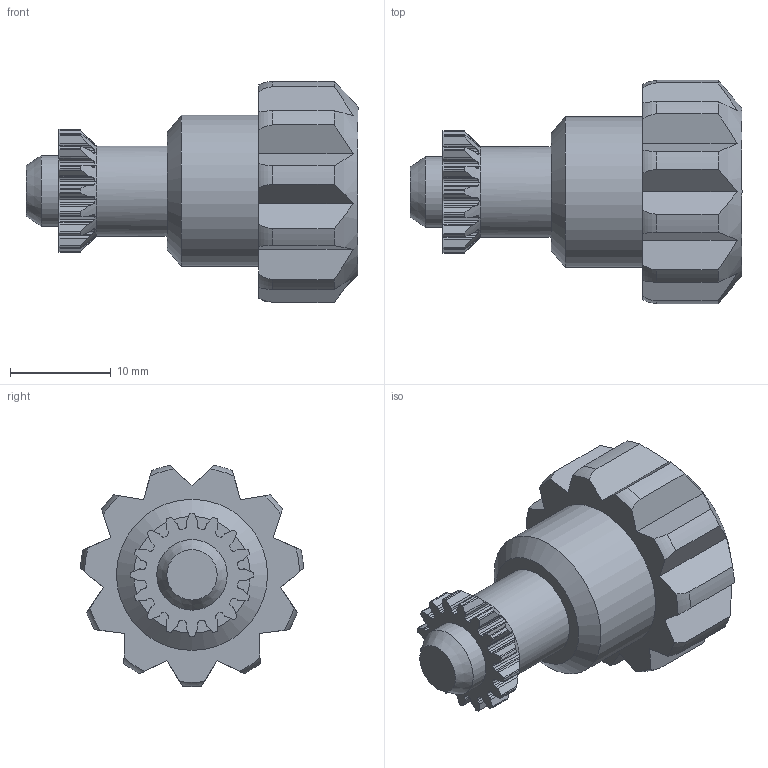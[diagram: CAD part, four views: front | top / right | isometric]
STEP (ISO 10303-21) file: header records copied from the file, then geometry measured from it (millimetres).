
FILE_DESCRIPTION(/* description */ ('STEP AP242','CAx-IF Rec.Pracs.---Representation and Presentation of Product Manufacturing Information (PMI)---4.0---2014-10-13','CAx-IF Rec.Pracs.---3D Tessellated Geometry---0.4---2014-09-14','2;1'),/* implementation_level */ '2;1');
FILE_NAME(/* name */ '66d3701695d81402515f4d34',/* time_stamp */ '2024-08-31T19:33:44Z',/* author */ (''),/* organization */ (''),/* preprocessor_version */ 'ST-DEVELOPER v20',/* originating_system */ ' ',/* authorisation */ ' ');
FILE_SCHEMA (('AP242_MANAGED_MODEL_BASED_3D_ENGINEERING_MIM_LF { 1 0 10303 442 1 1 4 }'));
Length unit declared in the file: metre
Products named in the file (1): crown
Bounding box: 32.96 x 22.16 x 21.97 mm (x, y, z)
Volume: 5564 mm3; surface area: 2298.1 mm2
Topology: 1 solids, 1 shells, 402 faces, 1184 edges, 789 vertices
Faces by surface type: plane 211, cylinder 130, bspline 31, cone 19, torus 11
Full cylindrical faces by diameter (mm): 7 x1, 9 x1, 15 x1
Entity records: 13728 total; most frequent: CARTESIAN_POINT 3619, ORIENTED_EDGE 2350, DIRECTION 1766, EDGE_CURVE 1175, VERTEX_POINT 786, LINE 636, VECTOR 636, AXIS2_PLACEMENT_3D 565
